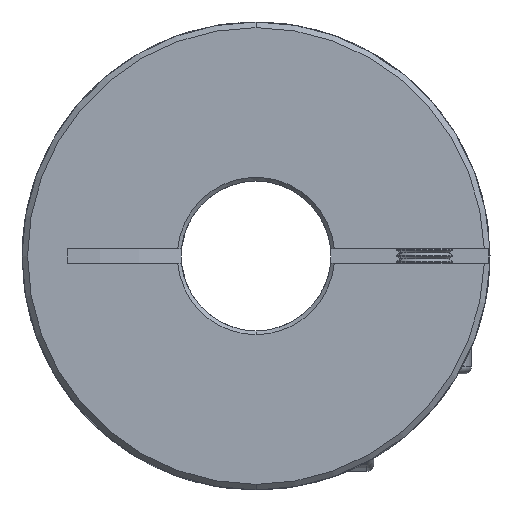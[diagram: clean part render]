
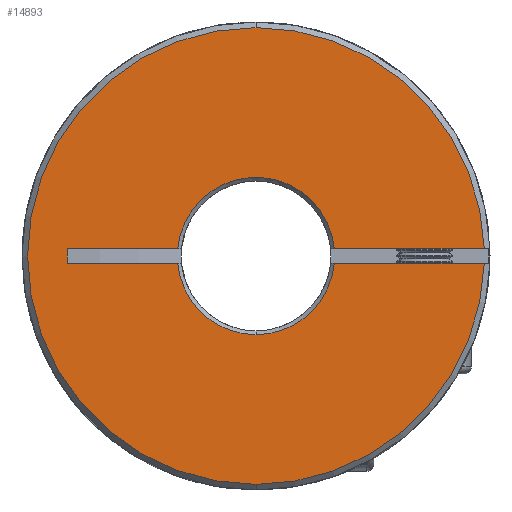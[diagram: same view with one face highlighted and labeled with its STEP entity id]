
A CAD part, front view. The second image highlights one B-rep face of the part: STEP entity #14893.
In plain terms, the highlighted planar face has unit normal (0, -1, 0).
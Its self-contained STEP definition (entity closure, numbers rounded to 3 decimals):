
#7 = EDGE_CURVE ( 'NONE', #9075, #10215, #16509, .T. ) ;
#309 = DIRECTION ( 'NONE',  ( 0., 0., 1. ) ) ;
#412 = EDGE_LOOP ( 'NONE', ( #1793, #15666, #15473, #4556, #2203, #17176, #1575, #6829, #14249, #16619, #15651 ) ) ;
#431 = DIRECTION ( 'NONE',  ( 1., 0., 0. ) ) ;
#459 = DIRECTION ( 'NONE',  ( 0., 0., 1. ) ) ;
#589 = EDGE_CURVE ( 'NONE', #7155, #10215, #14323, .T. ) ;
#911 = AXIS2_PLACEMENT_3D ( 'NONE', #13745, #5810, #1781 ) ;
#1047 = LINE ( 'NONE', #6113, #12593 ) ;
#1276 = AXIS2_PLACEMENT_3D ( 'NONE', #17264, #11875, #7876 ) ;
#1387 = CARTESIAN_POINT ( 'NONE',  ( 0., 0., -24.4 ) ) ;
#1508 = CARTESIAN_POINT ( 'NONE',  ( 0., 0., 0. ) ) ;
#1575 = ORIENTED_EDGE ( 'NONE', *, *, #14860, .T. ) ;
#1781 = DIRECTION ( 'NONE',  ( 0., 0., 1. ) ) ;
#1793 = ORIENTED_EDGE ( 'NONE', *, *, #589, .F. ) ;
#1979 = CIRCLE ( 'NONE', #14443, 24.4 ) ;
#2104 = LINE ( 'NONE', #4864, #9207 ) ;
#2132 = CARTESIAN_POINT ( 'NONE',  ( 0., 0., 24.4 ) ) ;
#2203 = ORIENTED_EDGE ( 'NONE', *, *, #15805, .T. ) ;
#2535 = CARTESIAN_POINT ( 'NONE',  ( -50., 0., 32.858 ) ) ;
#2891 = DIRECTION ( 'NONE',  ( 0., 1., 0. ) ) ;
#3104 = CARTESIAN_POINT ( 'NONE',  ( -8.366, 0., 0.75 ) ) ;
#3217 = AXIS2_PLACEMENT_3D ( 'NONE', #13690, #2891, #309 ) ;
#3283 = DIRECTION ( 'NONE',  ( 0., 1., 0. ) ) ;
#3656 = DIRECTION ( 'NONE',  ( 1., 0., 0. ) ) ;
#3887 = VECTOR ( 'NONE', #431, 1000. ) ;
#3893 = VERTEX_POINT ( 'NONE', #5495 ) ;
#3950 = PLANE ( 'NONE',  #10807 ) ;
#4273 = CARTESIAN_POINT ( 'NONE',  ( 24.388, 0., -0.75 ) ) ;
#4482 = EDGE_CURVE ( 'NONE', #3893, #15711, #14815, .T. ) ;
#4488 = CARTESIAN_POINT ( 'NONE',  ( 24.388, 0., 0.75 ) ) ;
#4556 = ORIENTED_EDGE ( 'NONE', *, *, #4482, .F. ) ;
#4864 = CARTESIAN_POINT ( 'NONE',  ( -50., 0., 0.75 ) ) ;
#5163 = CARTESIAN_POINT ( 'NONE',  ( 8.366, 0., 0.75 ) ) ;
#5495 = CARTESIAN_POINT ( 'NONE',  ( -20.149, 0., -0.75 ) ) ;
#5645 = CARTESIAN_POINT ( 'NONE',  ( -20.149, 0., 0.75 ) ) ;
#5810 = DIRECTION ( 'NONE',  ( 0., -1., 0. ) ) ;
#6060 = DIRECTION ( 'NONE',  ( 0., -1., 0. ) ) ;
#6113 = CARTESIAN_POINT ( 'NONE',  ( -50., 0., 0.75 ) ) ;
#6585 = VERTEX_POINT ( 'NONE', #3104 ) ;
#6829 = ORIENTED_EDGE ( 'NONE', *, *, #15981, .T. ) ;
#7074 = CARTESIAN_POINT ( 'NONE',  ( 0., 0., -8.4 ) ) ;
#7155 = VERTEX_POINT ( 'NONE', #13940 ) ;
#7539 = CIRCLE ( 'NONE', #17053, 8.4 ) ;
#7876 = DIRECTION ( 'NONE',  ( 0., 0., 1. ) ) ;
#7884 = EDGE_CURVE ( 'NONE', #7155, #17169, #7539, .T. ) ;
#8063 = DIRECTION ( 'NONE',  ( 0., 0., 1. ) ) ;
#8251 = VERTEX_POINT ( 'NONE', #5645 ) ;
#8349 = CARTESIAN_POINT ( 'NONE',  ( -50., 0., -0.75 ) ) ;
#8459 = EDGE_CURVE ( 'NONE', #8251, #6585, #1047, .T. ) ;
#8636 = DIRECTION ( 'NONE',  ( 1., 0., 0. ) ) ;
#9075 = VERTEX_POINT ( 'NONE', #1387 ) ;
#9207 = VECTOR ( 'NONE', #8636, 1000. ) ;
#9256 = VERTEX_POINT ( 'NONE', #4488 ) ;
#9585 = DIRECTION ( 'NONE',  ( 0., -1., 0. ) ) ;
#9668 = VECTOR ( 'NONE', #12915, 1000. ) ;
#10062 = FACE_OUTER_BOUND ( 'NONE', #412, .T. ) ;
#10106 = AXIS2_PLACEMENT_3D ( 'NONE', #14190, #6060, #10213 ) ;
#10213 = DIRECTION ( 'NONE',  ( 0., 0., 1. ) ) ;
#10215 = VERTEX_POINT ( 'NONE', #4273 ) ;
#10690 = CARTESIAN_POINT ( 'NONE',  ( -20.149, 0., -0.75 ) ) ;
#10807 = AXIS2_PLACEMENT_3D ( 'NONE', #2535, #14670, #17436 ) ;
#10921 = DIRECTION ( 'NONE',  ( 0., 0., 1. ) ) ;
#11344 = VERTEX_POINT ( 'NONE', #5163 ) ;
#11838 = CIRCLE ( 'NONE', #911, 24.4 ) ;
#11875 = DIRECTION ( 'NONE',  ( 0., 1., 0. ) ) ;
#12593 = VECTOR ( 'NONE', #3656, 1000. ) ;
#12730 = CARTESIAN_POINT ( 'NONE',  ( -8.366, 0., -0.75 ) ) ;
#12915 = DIRECTION ( 'NONE',  ( 1., 0., 0. ) ) ;
#13059 = EDGE_CURVE ( 'NONE', #15227, #9075, #11838, .T. ) ;
#13145 = CIRCLE ( 'NONE', #3217, 8.4 ) ;
#13501 = EDGE_CURVE ( 'NONE', #9256, #15227, #1979, .T. ) ;
#13690 = CARTESIAN_POINT ( 'NONE',  ( 0., 0., 0. ) ) ;
#13745 = CARTESIAN_POINT ( 'NONE',  ( 0., 0., 0. ) ) ;
#13940 = CARTESIAN_POINT ( 'NONE',  ( 8.366, 0., -0.75 ) ) ;
#14190 = CARTESIAN_POINT ( 'NONE',  ( 0., 0., 0. ) ) ;
#14231 = CARTESIAN_POINT ( 'NONE',  ( -50., 0., -0.75 ) ) ;
#14249 = ORIENTED_EDGE ( 'NONE', *, *, #13501, .T. ) ;
#14323 = LINE ( 'NONE', #14231, #9668 ) ;
#14443 = AXIS2_PLACEMENT_3D ( 'NONE', #1508, #9585, #10921 ) ;
#14533 = CIRCLE ( 'NONE', #1276, 8.4 ) ;
#14670 = DIRECTION ( 'NONE',  ( 0., 1., 0. ) ) ;
#14815 = LINE ( 'NONE', #8349, #3887 ) ;
#14860 = EDGE_CURVE ( 'NONE', #6585, #11344, #14533, .T. ) ;
#14893 = ADVANCED_FACE ( 'NONE', ( #10062 ), #3950, .F. ) ;
#15227 = VERTEX_POINT ( 'NONE', #2132 ) ;
#15473 = ORIENTED_EDGE ( 'NONE', *, *, #17425, .T. ) ;
#15651 = ORIENTED_EDGE ( 'NONE', *, *, #7, .T. ) ;
#15666 = ORIENTED_EDGE ( 'NONE', *, *, #7884, .T. ) ;
#15711 = VERTEX_POINT ( 'NONE', #12730 ) ;
#15805 = EDGE_CURVE ( 'NONE', #3893, #8251, #17512, .T. ) ;
#15981 = EDGE_CURVE ( 'NONE', #11344, #9256, #2104, .T. ) ;
#16228 = VECTOR ( 'NONE', #8063, 1000. ) ;
#16509 = CIRCLE ( 'NONE', #10106, 24.4 ) ;
#16619 = ORIENTED_EDGE ( 'NONE', *, *, #13059, .T. ) ;
#16691 = CARTESIAN_POINT ( 'NONE',  ( 0., 0., 0. ) ) ;
#17053 = AXIS2_PLACEMENT_3D ( 'NONE', #16691, #3283, #459 ) ;
#17169 = VERTEX_POINT ( 'NONE', #7074 ) ;
#17176 = ORIENTED_EDGE ( 'NONE', *, *, #8459, .T. ) ;
#17264 = CARTESIAN_POINT ( 'NONE',  ( 0., 0., 0. ) ) ;
#17425 = EDGE_CURVE ( 'NONE', #17169, #15711, #13145, .T. ) ;
#17436 = DIRECTION ( 'NONE',  ( 0., 0., 1. ) ) ;
#17512 = LINE ( 'NONE', #10690, #16228 ) ;
